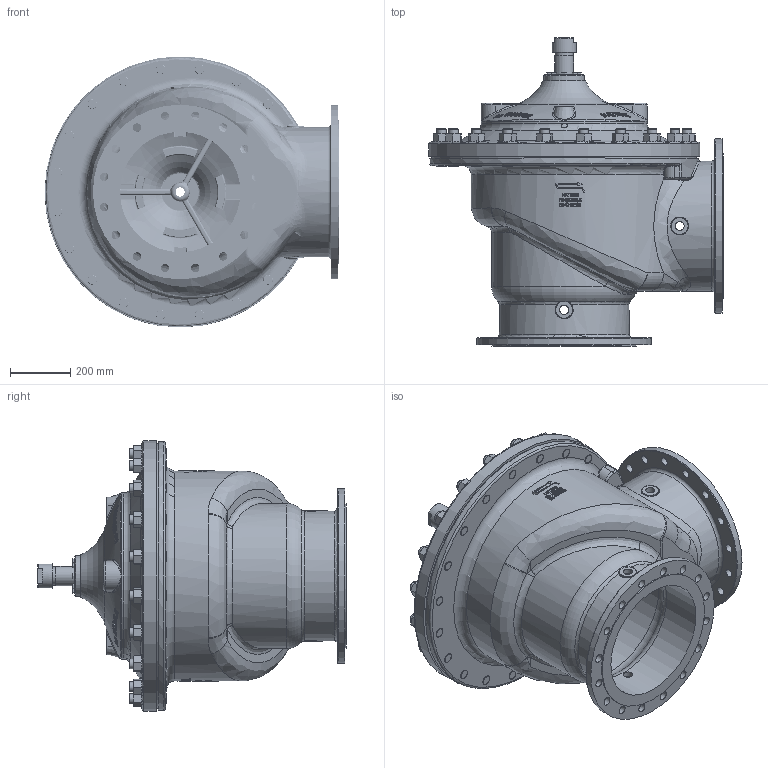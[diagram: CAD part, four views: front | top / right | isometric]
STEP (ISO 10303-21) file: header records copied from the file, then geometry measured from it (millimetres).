
FILE_DESCRIPTION(/* description */ ('Epoxy coating (IT 542)'),/* implementation_level */ '2;1');
FILE_NAME(/* name */ 'G:\Doc_Liberes\SymbolesCAD\AE400-10RF.stp',/* time_stamp */ '2016-06-24T14:57:20+02:00',/* author */ ('sylvain'),/* organization */ (''),/* preprocessor_version */ 'ST-DEVELOPER v16.1',/* originating_system */ 'Autodesk Inventor 2016',/* authorisation */ '');
FILE_SCHEMA (('AUTOMOTIVE_DESIGN { 1 0 10303 214 3 1 1 }'));
Length unit declared in the file: millimetre
Products named in the file (14): 57194; tv6700; 57008; 3_8-1.25-UNC; 3_8; arp283; HY400-15; HY400-05; ANSI B18.6.2 - 3_8-16 UNC - 1.5(16); AE400-10; 1 1_4; 1 1_4-UNC; HY400-04; AE400-10_1
Assembly tree (95 placements, depth 2):
  AE400-10_1
    57194
    tv6700
    57008
    3_8-1.25-UNC  x8
    3_8  x8
    arp283
    HY400-15
    HY400-05
    ANSI B18.6.2 - 3_8-16 UNC - 1.5(16)  x12
    AE400-10
    1 1_4  x20
    1 1_4-UNC  x20
    HY400-04  x20
Bounding box: 978.6 x 1023.95 x 900 mm (x, y, z)
Volume: 70065188.8 mm3; surface area: 7376862.5 mm2
Topology: 95 solids, 95 shells, 4371 faces, 11474 edges, 7404 vertices
Faces by surface type: plane 1708, cone 1564, cylinder 496, bspline 469, torus 86, sphere 48
Full cylindrical faces by diameter (mm): 3.2 x1, 7.8 x12, 8.49 x8, 9.525 x20, 9.855 x8, 10.31 x20, 10.319 x8, 14.287 x8, 20.637 x8, 22.05 x4, 27.81 x20, 27.813 x20, 28 x32, 30.29 x5, 30.84 x3, 31.75 x20, 34.925 x20, 35 x20, 38.1 x2, 45.84 x1, 47.75 x1, 48.2 x1, 49.77 x1, 50.8 x1, 56 x2, 56.66 x1, 60 x1, 60.3 x1, 63.5 x21, 64 x20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
Entity records: 178211 total; most frequent: CARTESIAN_POINT 93960, ORIENTED_EDGE 18068, DIRECTION 16057, EDGE_CURVE 9034, AXIS2_PLACEMENT_3D 7401, VERTEX_POINT 6105, CIRCLE 4284, EDGE_LOOP 4137
